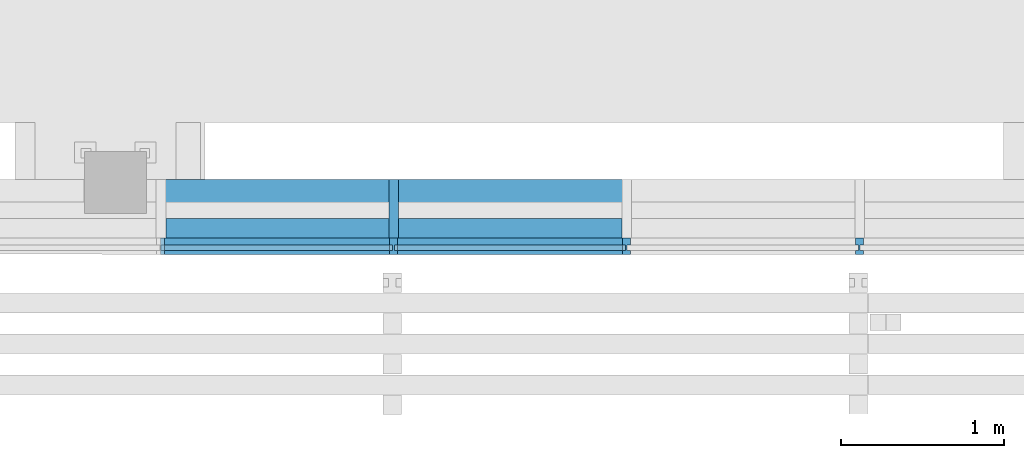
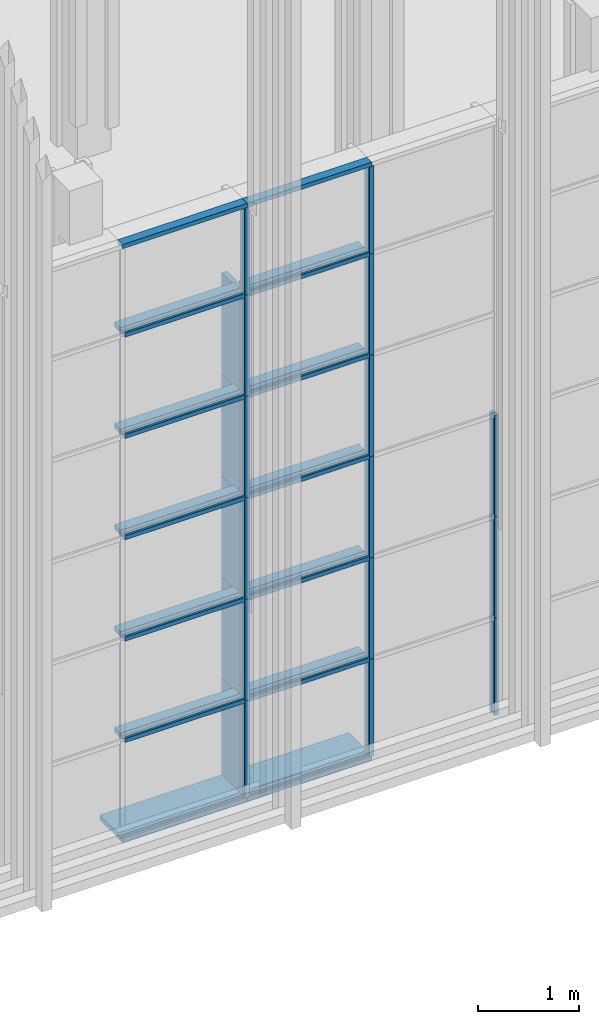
# One storey, part 15 of 260: 46 members, 2 elements without a shape of their own.
"""IFC2X3 building model written with IfcOpenShell, lengths in millimetres."""

from ifc_helpers import new_model, entity, si_unit, converted_unit, derived_unit, money_unit, direction, frame, origin_with_axes, place, context, subcontext, project, spatial, faceted_brep, source, transform, mapped, material, type_object, element, aggregate, save


model = new_model("IFC2X3")

# Units and contexts
model_context = context("Model", 3, precision=0.01, world=origin_with_axes(), true_north=direction((0.0, 1.0)))
body_context = subcontext(model_context, "Body", "Model", "MODEL_VIEW")
ifc_project = project(units=[si_unit("LENGTHUNIT", "METRE", prefix="MILLI"), si_unit("AREAUNIT", "SQUARE_METRE"), si_unit("VOLUMEUNIT", "CUBIC_METRE"), converted_unit("PLANEANGLEUNIT", "DEGREE", entity("IfcPlaneAngleMeasure", 0.0174532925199), si_unit("PLANEANGLEUNIT", "RADIAN"), dimensions=[0, 0, 0, 0, 0, 0, 0]), money_unit("EUR"), converted_unit("TIMEUNIT", "Year", entity("IfcTimeMeasure", 31556926.0), si_unit("TIMEUNIT", "SECOND"), dimensions=[0, 0, 1, 0, 0, 0, 0]), si_unit("MASSUNIT", "GRAM", prefix="KILO"), si_unit("THERMODYNAMICTEMPERATUREUNIT", "DEGREE_CELSIUS"), si_unit("LUMINOUSINTENSITYUNIT", "LUMEN"), si_unit("ENERGYUNIT", "JOULE", prefix="MEGA"), derived_unit("THERMALCONDUCTANCEUNIT", [(si_unit("POWERUNIT", "WATT"), 1), (si_unit("LENGTHUNIT", "METRE"), -1), (si_unit("THERMODYNAMICTEMPERATUREUNIT", "KELVIN"), -1)]), derived_unit("SPECIFICHEATCAPACITYUNIT", [(si_unit("ENERGYUNIT", "JOULE"), 1), (si_unit("MASSUNIT", "GRAM", prefix="KILO"), -1), (si_unit("THERMODYNAMICTEMPERATUREUNIT", "KELVIN"), -1)]), derived_unit("MASSDENSITYUNIT", [(si_unit("MASSUNIT", "GRAM", prefix="KILO"), 1), (si_unit("VOLUMEUNIT", "CUBIC_METRE"), -1)])], contexts=[model_context])

# Site, building, storey
site_placement = place(None, origin_with_axes())
site = spatial("IfcSite", under=ifc_project, at=site_placement, Name="Kolde pst 67a", CompositionType="ELEMENT")
building_placement = place(site_placement, origin_with_axes())
building = spatial("IfcBuilding", under=site, at=building_placement, Name="Riigigümnaasium", CompositionType="ELEMENT")
storey_placement = place(building_placement, origin_with_axes())
storey = spatial("IfcBuildingStorey", under=building, at=storey_placement, Name="1. korrus", CompositionType="ELEMENT", Elevation=0.0)

# Curtain wall, members
curtain_wall_type = type_object("IfcCurtainWallType", Name="Curtain Wall Type", PredefinedType="NOTDEFINED")
curtain_wall_1_placement = place(storey_placement, frame((47829.9854655, 8727.77020058, -0.000749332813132), z_axis=(0.0, 0.0, 1.0), x_axis=(1.0, 0.0, 0.0)))
curtain_wall_1 = element("IfcCurtainWall", 1, at=curtain_wall_1_placement, inside=storey, type_object=curtain_wall_type, Name="KLAASFASSAAD")
ifc_material_1 = material(Name="_METALL - alumiinium")
member_type_1 = type_object("IfcMemberType", Name="Mullion Frame 50 x 100", PredefinedType="MEMBER")
shared_shape_1 = source(origin_with_axes(), body_context, "Body", "Brep", [
    faceted_brep([(5.0, -16.5, 1230.00046362), (5.0, 16.5, 1230.00046362), (25.0, 16.5, 1230.00046362), (25.0, 40.0, 1230.00046362), (-25.0, 40.0, 1230.00046362), (-25.0, 16.5, 1230.00046362), (-5.0, 16.5, 1230.00046362), (-5.0, -16.5, 1230.00046362), (-25.0, -16.5, 1230.00046362), (-25.0, -60.0, 1230.00046362), (25.0, -60.0, 1230.00046362), (25.0, -16.5, 1230.00046362), (5.0, -16.5, 50.0), (5.0, 16.5, 50.0), (25.0, 16.5, 50.0), (25.0, 40.0, 50.0), (-25.0, 40.0, 50.0), (-25.0, 16.5, 50.0), (-5.0, 16.5, 50.0), (-5.0, -16.5, 50.0), (-25.0, -16.5, 50.0), (-25.0, -60.0, 50.0), (25.0, -60.0, 50.0), (25.0, -16.5, 50.0)], [[[0, 1, 2, 3, 4, 5, 6, 7, 8, 9, 10, 11]], [[0, 12, 13, 1]], [[1, 13, 14, 2]], [[14, 15, 3, 2]], [[4, 3, 15, 16]], [[17, 5, 4, 16]], [[5, 17, 18, 6]], [[7, 6, 18, 19]], [[8, 7, 19, 20]], [[8, 20, 21, 9]], [[10, 9, 21, 22]], [[11, 10, 22, 23]], [[11, 23, 12, 0]], [[13, 12, 23, 22, 21, 20, 19, 18, 17, 16, 15, 14]]]),
])
member_1_placement = place(curtain_wall_1_placement, frame((-7012.41506387, 15102.3099622, 0.000285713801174), z_axis=(0.0, 0.0, 1.0), x_axis=(0.999999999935, -1.14108152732e-05, 0.0)))
member_1 = element("IfcMember", 2, at=member_1_placement, type_object=member_type_1, material=ifc_material_1, Name="RF RAAM VERT-077", ObjectType="MEMBER", context=body_context, shape_type="MappedRepresentation", body=[
    mapped(shared_shape_1, transform((0.0, 0.0, 0.0), x_axis=(-1.0, 0.0, 0.0), y_axis=(0.0, -1.0, 0.0), z_axis=(0.0, 0.0, 1.0))),
])
member_2_placement = place(curtain_wall_1_placement, frame((-8442.41506377, 15102.3262796, 0.000285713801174), z_axis=(0.0, 0.0, 1.0), x_axis=(0.999999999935, -1.14108152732e-05, 0.0)))
member_2 = element("IfcMember", 3, at=member_2_placement, type_object=member_type_1, material=ifc_material_1, Name="RF RAAM VERT-083", ObjectType="MEMBER", context=body_context, shape_type="MappedRepresentation", body=[
    mapped(shared_shape_1, transform((0.0, 0.0, 0.0), x_axis=(-1.0, 0.0, 0.0), y_axis=(0.0, -1.0, 0.0), z_axis=(0.0, 0.0, 1.0))),
])
member_3_placement = place(curtain_wall_1_placement, frame((-9872.41506368, 15102.3425971, 0.000285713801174), z_axis=(0.0, 0.0, 1.0), x_axis=(0.999999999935, -1.14108152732e-05, 0.0)))
member_3 = element("IfcMember", 4, at=member_3_placement, type_object=member_type_1, material=ifc_material_1, Name="RF RAAM VERT-089", ObjectType="MEMBER", context=body_context, shape_type="MappedRepresentation", body=[
    mapped(shared_shape_1, transform((0.0, 0.0, 0.0), x_axis=(-1.0, 0.0, 0.0), y_axis=(0.0, -1.0, 0.0), z_axis=(0.0, 0.0, 1.0))),
])
shared_shape_2 = source(origin_with_axes(), body_context, "Body", "Brep", [
    faceted_brep([(5.0, -16.5, 1230.0), (5.0, 16.5, 1230.0), (25.0, 16.5, 1230.0), (25.0, 40.0, 1230.0), (-25.0, 40.0, 1230.0), (-25.0, 16.5, 1230.0), (-5.0, 16.5, 1230.0), (-5.0, -16.5, 1230.0), (-25.0, -16.5, 1230.0), (-25.0, -60.0, 1230.0), (25.0, -60.0, 1230.0), (25.0, -16.5, 1230.0), (5.0, -16.5, 0.0), (5.0, 16.5, 0.0), (25.0, 16.5, 0.0), (25.0, 40.0, 0.0), (-25.0, 40.0, 0.0), (-25.0, 16.5, 0.0), (-5.0, 16.5, 0.0), (-5.0, -16.5, 0.0), (-25.0, -16.5, 0.0), (-25.0, -60.0, 0.0), (25.0, -60.0, 0.0), (25.0, -16.5, 0.0)], [[[0, 1, 2, 3, 4, 5, 6, 7, 8, 9, 10, 11]], [[0, 12, 13, 1]], [[1, 13, 14, 2]], [[14, 15, 3, 2]], [[3, 15, 16, 4]], [[17, 5, 4, 16]], [[5, 17, 18, 6]], [[7, 6, 18, 19]], [[8, 7, 19, 20]], [[8, 20, 21, 9]], [[9, 21, 22, 10]], [[11, 10, 22, 23]], [[11, 23, 12, 0]], [[13, 12, 23, 22, 21, 20, 19, 18, 17, 16, 15, 14]]]),
])
member_4_placement = place(curtain_wall_1_placement, frame((-7012.41506387, 15102.3099622, 1230.00074933), z_axis=(0.0, 0.0, 1.0), x_axis=(0.999999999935, -1.14108152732e-05, 0.0)))
member_4 = element("IfcMember", 5, at=member_4_placement, type_object=member_type_1, material=ifc_material_1, Name="RF RAAM VERT-078", ObjectType="MEMBER", context=body_context, shape_type="MappedRepresentation", body=[
    mapped(shared_shape_2, transform((0.0, 0.0, 0.0), x_axis=(-1.0, 0.0, 0.0), y_axis=(0.0, -1.0, 0.0), z_axis=(0.0, 0.0, 1.0))),
])
member_5_placement = place(curtain_wall_1_placement, frame((-7012.41506387, 15102.3099622, 2460.00074933), z_axis=(0.0, 0.0, 1.0), x_axis=(0.999999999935, -1.14108152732e-05, 0.0)))
member_5 = element("IfcMember", 6, at=member_5_placement, type_object=member_type_1, material=ifc_material_1, Name="RF RAAM VERT-079", ObjectType="MEMBER", context=body_context, shape_type="MappedRepresentation", body=[
    mapped(shared_shape_2, transform((0.0, 0.0, 0.0), x_axis=(-1.0, 0.0, 0.0), y_axis=(0.0, -1.0, 0.0), z_axis=(0.0, 0.0, 1.0))),
])
member_6_placement = place(curtain_wall_1_placement, frame((-8442.41506377, 15102.3262796, 1230.00074933), z_axis=(0.0, 0.0, 1.0), x_axis=(0.999999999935, -1.14108152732e-05, 0.0)))
member_6 = element("IfcMember", 7, at=member_6_placement, type_object=member_type_1, material=ifc_material_1, Name="RF RAAM VERT-084", ObjectType="MEMBER", context=body_context, shape_type="MappedRepresentation", body=[
    mapped(shared_shape_2, transform((0.0, 0.0, 0.0), x_axis=(-1.0, 0.0, 0.0), y_axis=(0.0, -1.0, 0.0), z_axis=(0.0, 0.0, 1.0))),
])
member_7_placement = place(curtain_wall_1_placement, frame((-8442.41506377, 15102.3262796, 2460.00074933), z_axis=(0.0, 0.0, 1.0), x_axis=(0.999999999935, -1.14108152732e-05, 0.0)))
member_7 = element("IfcMember", 8, at=member_7_placement, type_object=member_type_1, material=ifc_material_1, Name="RF RAAM VERT-085", ObjectType="MEMBER", context=body_context, shape_type="MappedRepresentation", body=[
    mapped(shared_shape_2, transform((0.0, 0.0, 0.0), x_axis=(-1.0, 0.0, 0.0), y_axis=(0.0, -1.0, 0.0), z_axis=(0.0, 0.0, 1.0))),
])
member_8_placement = place(curtain_wall_1_placement, frame((-8442.41506377, 15102.3262796, 3690.00074933), z_axis=(0.0, 0.0, 1.0), x_axis=(0.999999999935, -1.14108152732e-05, 0.0)))
member_8 = element("IfcMember", 9, at=member_8_placement, type_object=member_type_1, material=ifc_material_1, Name="RF RAAM VERT-086", ObjectType="MEMBER", context=body_context, shape_type="MappedRepresentation", body=[
    mapped(shared_shape_2, transform((0.0, 0.0, 0.0), x_axis=(-1.0, 0.0, 0.0), y_axis=(0.0, -1.0, 0.0), z_axis=(0.0, 0.0, 1.0))),
])
member_9_placement = place(curtain_wall_1_placement, frame((-8442.41506377, 15102.3262796, 4920.00074933), z_axis=(0.0, 0.0, 1.0), x_axis=(0.999999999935, -1.14108152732e-05, 0.0)))
member_9 = element("IfcMember", 10, at=member_9_placement, type_object=member_type_1, material=ifc_material_1, Name="RF RAAM VERT-087", ObjectType="MEMBER", context=body_context, shape_type="MappedRepresentation", body=[
    mapped(shared_shape_2, transform((0.0, 0.0, 0.0), x_axis=(-1.0, 0.0, 0.0), y_axis=(0.0, -1.0, 0.0), z_axis=(0.0, 0.0, 1.0))),
])
member_10_placement = place(curtain_wall_1_placement, frame((-9872.41506368, 15102.3425971, 1230.00074933), z_axis=(0.0, 0.0, 1.0), x_axis=(0.999999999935, -1.14108152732e-05, 0.0)))
member_10 = element("IfcMember", 11, at=member_10_placement, type_object=member_type_1, material=ifc_material_1, Name="RF RAAM VERT-090", ObjectType="MEMBER", context=body_context, shape_type="MappedRepresentation", body=[
    mapped(shared_shape_2, transform((0.0, 0.0, 0.0), x_axis=(-1.0, 0.0, 0.0), y_axis=(0.0, -1.0, 0.0), z_axis=(0.0, 0.0, 1.0))),
])
member_11_placement = place(curtain_wall_1_placement, frame((-9872.41506368, 15102.3425971, 2460.00074933), z_axis=(0.0, 0.0, 1.0), x_axis=(0.999999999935, -1.14108152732e-05, 0.0)))
member_11 = element("IfcMember", 12, at=member_11_placement, type_object=member_type_1, material=ifc_material_1, Name="RF RAAM VERT-091", ObjectType="MEMBER", context=body_context, shape_type="MappedRepresentation", body=[
    mapped(shared_shape_2, transform((0.0, 0.0, 0.0), x_axis=(-1.0, 0.0, 0.0), y_axis=(0.0, -1.0, 0.0), z_axis=(0.0, 0.0, 1.0))),
])
member_12_placement = place(curtain_wall_1_placement, frame((-9872.41506368, 15102.3425971, 3690.00074933), z_axis=(0.0, 0.0, 1.0), x_axis=(0.999999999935, -1.14108152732e-05, 0.0)))
member_12 = element("IfcMember", 13, at=member_12_placement, type_object=member_type_1, material=ifc_material_1, Name="RF RAAM VERT-092", ObjectType="MEMBER", context=body_context, shape_type="MappedRepresentation", body=[
    mapped(shared_shape_2, transform((0.0, 0.0, 0.0), x_axis=(-1.0, 0.0, 0.0), y_axis=(0.0, -1.0, 0.0), z_axis=(0.0, 0.0, 1.0))),
])
member_13_placement = place(curtain_wall_1_placement, frame((-9872.41506368, 15102.3425971, 4920.00074933), z_axis=(0.0, 0.0, 1.0), x_axis=(0.999999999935, -1.14108152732e-05, 0.0)))
member_13 = element("IfcMember", 14, at=member_13_placement, type_object=member_type_1, material=ifc_material_1, Name="RF RAAM VERT-093", ObjectType="MEMBER", context=body_context, shape_type="MappedRepresentation", body=[
    mapped(shared_shape_2, transform((0.0, 0.0, 0.0), x_axis=(-1.0, 0.0, 0.0), y_axis=(0.0, -1.0, 0.0), z_axis=(0.0, 0.0, 1.0))),
])
member_type_2 = type_object("IfcMemberType", Name="Boundary Frame 50 x 100", PredefinedType="MEMBER")
shared_shape_3 = source(origin_with_axes(), body_context, "Body", "Brep", [
    faceted_brep([(-30.0, -16.5, 1430.0), (-50.0, -16.5, 1430.0), (-50.0, -60.0, 1430.0), (0.0, -60.0, 1430.0), (0.0, 40.0, 1430.0), (-50.0, 40.0, 1430.0), (-50.0, 16.5, 1430.0), (-30.0, 16.5, 1430.0), (-30.0, -16.5, 0.0), (-50.0, -16.5, 0.0), (-50.0, -60.0, 0.0), (0.0, -60.0, 0.0), (0.0, 40.0, 0.0), (-50.0, 40.0, 0.0), (-50.0, 16.5, 0.0), (-30.0, 16.5, 0.0)], [[[0, 1, 2, 3, 4, 5, 6, 7]], [[0, 8, 9, 1]], [[9, 10, 2, 1]], [[10, 11, 3, 2]], [[11, 12, 4, 3]], [[12, 13, 5, 4]], [[6, 5, 13, 14]], [[14, 15, 7, 6]], [[7, 15, 8, 0]], [[8, 15, 14, 13, 12, 11, 10, 9]]]),
])
member_14_placement = place(curtain_wall_1_placement, frame((-8442.41506377, 15102.3262796, 0.000285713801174), z_axis=(-0.999999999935, 1.14108152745e-05, 0.0), x_axis=(0.0, 0.0, 1.0)))
member_14 = element("IfcMember", 15, at=member_14_placement, type_object=member_type_2, material=ifc_material_1, Name="RF RAAM SERV-595", ObjectType="MEMBER", context=body_context, shape_type="MappedRepresentation", body=[
    mapped(shared_shape_3, transform((0.0, 0.0, 0.0), x_axis=(-1.0, 0.0, 0.0), y_axis=(0.0, -1.0, 0.0), z_axis=(0.0, 0.0, 1.0))),
])
member_15_placement = place(curtain_wall_1_placement, frame((-9872.41506368, 15102.3425971, 0.000285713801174), z_axis=(-0.999999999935, 1.1410815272e-05, 0.0), x_axis=(0.0, 0.0, 1.0)))
member_15 = element("IfcMember", 16, at=member_15_placement, type_object=member_type_2, material=ifc_material_1, Name="RF RAAM SERV-596", ObjectType="MEMBER", context=body_context, shape_type="MappedRepresentation", body=[
    mapped(shared_shape_3, transform((0.0, 0.0, 0.0), x_axis=(-1.0, 0.0, 0.0), y_axis=(0.0, -1.0, 0.0), z_axis=(0.0, 0.0, 1.0))),
])
member_16_placement = place(curtain_wall_1_placement, frame((-9872.41506368, 15102.3425971, 7259.99992735), z_axis=(0.999999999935, -1.14108152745e-05, 0.0), x_axis=(0.0, 0.0, -1.0)))
member_16 = element("IfcMember", 17, at=member_16_placement, type_object=member_type_2, material=ifc_material_1, Name="RF RAAM SERV-622", ObjectType="MEMBER", context=body_context, shape_type="MappedRepresentation", body=[
    mapped(shared_shape_3, transform((0.0, 0.0, 0.0), x_axis=(-1.0, 0.0, 0.0), y_axis=(0.0, -1.0, 0.0), z_axis=(0.0, 0.0, 1.0))),
])
member_17_placement = place(curtain_wall_1_placement, frame((-11302.4150636, 15102.3589146, 7259.99992735), z_axis=(0.999999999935, -1.1410815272e-05, 0.0), x_axis=(0.0, 0.0, -1.0)))
member_17 = element("IfcMember", 18, at=member_17_placement, type_object=member_type_2, material=ifc_material_1, Name="RF RAAM SERV-621", ObjectType="MEMBER", context=body_context, shape_type="MappedRepresentation", body=[
    mapped(shared_shape_3, transform((0.0, 0.0, 0.0), x_axis=(-1.0, 0.0, 0.0), y_axis=(0.0, -1.0, 0.0), z_axis=(0.0, 0.0, 1.0))),
])
member_type_3 = type_object("IfcMemberType", Name="Transom Frame 50 x 100", PredefinedType="MEMBER")
shared_shape_4 = source(origin_with_axes(), body_context, "Body", "Brep", [
    faceted_brep([(5.0, -16.5, 1405.0), (5.0, 16.5, 1405.0), (25.0, 16.5, 1405.0), (25.0, 40.0, 1405.0), (-25.0, 40.0, 1405.0), (-25.0, 16.5, 1405.0), (-5.0, 16.5, 1405.0), (-5.0, -16.5, 1405.0), (-25.0, -16.5, 1405.0), (-25.0, -60.0, 1405.0), (25.0, -60.0, 1405.0), (25.0, -16.5, 1405.0), (5.0, -16.5, 25.0), (5.0, 16.5, 25.0), (25.0, 16.5, 25.0), (25.0, 40.0, 25.0), (-25.0, 40.0, 25.0), (-25.0, 16.5, 25.0), (-5.0, 16.5, 25.0), (-5.0, -16.5, 25.0), (-25.0, -16.5, 25.0), (-25.0, -60.0, 25.0), (25.0, -60.0, 25.0), (25.0, -16.5, 25.0)], [[[0, 1, 2, 3, 4, 5, 6, 7, 8, 9, 10, 11]], [[0, 12, 13, 1]], [[1, 13, 14, 2]], [[14, 15, 3, 2]], [[4, 3, 15, 16]], [[17, 5, 4, 16]], [[5, 17, 18, 6]], [[7, 6, 18, 19]], [[8, 7, 19, 20]], [[8, 20, 21, 9]], [[10, 9, 21, 22]], [[11, 10, 22, 23]], [[11, 23, 12, 0]], [[13, 12, 23, 22, 21, 20, 19, 18, 17, 16, 15, 14]]]),
])
member_18_placement = place(curtain_wall_1_placement, frame((-8442.41506377, 15102.3262796, 1230.00074933), z_axis=(-0.999999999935, 1.14108152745e-05, 0.0), x_axis=(0.0, 0.0, 1.0)))
member_18 = element("IfcMember", 19, at=member_18_placement, type_object=member_type_3, material=ifc_material_1, Name="RF RAAM HOR-031", ObjectType="MEMBER", context=body_context, shape_type="MappedRepresentation", body=[
    mapped(shared_shape_4, transform((0.0, 0.0, 0.0), x_axis=(-1.0, 0.0, 0.0), y_axis=(0.0, -1.0, 0.0), z_axis=(0.0, 0.0, 1.0))),
])
member_19_placement = place(curtain_wall_1_placement, frame((-9872.41506368, 15102.3425971, 1230.00074933), z_axis=(-0.999999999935, 1.1410815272e-05, 0.0), x_axis=(0.0, 0.0, 1.0)))
member_19 = element("IfcMember", 20, at=member_19_placement, type_object=member_type_3, material=ifc_material_1, Name="RF RAAM HOR-032", ObjectType="MEMBER", context=body_context, shape_type="MappedRepresentation", body=[
    mapped(shared_shape_4, transform((0.0, 0.0, 0.0), x_axis=(-1.0, 0.0, 0.0), y_axis=(0.0, -1.0, 0.0), z_axis=(0.0, 0.0, 1.0))),
])
member_20_placement = place(curtain_wall_1_placement, frame((-8442.41506377, 15102.3262796, 2460.00074933), z_axis=(-0.999999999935, 1.14108152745e-05, 0.0), x_axis=(0.0, 0.0, 1.0)))
member_20 = element("IfcMember", 21, at=member_20_placement, type_object=member_type_3, material=ifc_material_1, Name="RF RAAM HOR-048", ObjectType="MEMBER", context=body_context, shape_type="MappedRepresentation", body=[
    mapped(shared_shape_4, transform((0.0, 0.0, 0.0), x_axis=(-1.0, 0.0, 0.0), y_axis=(0.0, -1.0, 0.0), z_axis=(0.0, 0.0, 1.0))),
])
member_21_placement = place(curtain_wall_1_placement, frame((-9872.41506368, 15102.3425971, 2460.00074933), z_axis=(-0.999999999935, 1.1410815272e-05, 0.0), x_axis=(0.0, 0.0, 1.0)))
member_21 = element("IfcMember", 22, at=member_21_placement, type_object=member_type_3, material=ifc_material_1, Name="RF RAAM HOR-049", ObjectType="MEMBER", context=body_context, shape_type="MappedRepresentation", body=[
    mapped(shared_shape_4, transform((0.0, 0.0, 0.0), x_axis=(-1.0, 0.0, 0.0), y_axis=(0.0, -1.0, 0.0), z_axis=(0.0, 0.0, 1.0))),
])
member_22_placement = place(curtain_wall_1_placement, frame((-8442.41506377, 15102.3262796, 3690.00074933), z_axis=(-0.999999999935, 1.14108152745e-05, 0.0), x_axis=(0.0, 0.0, 1.0)))
member_22 = element("IfcMember", 23, at=member_22_placement, type_object=member_type_3, material=ifc_material_1, Name="RF RAAM HOR-065", ObjectType="MEMBER", context=body_context, shape_type="MappedRepresentation", body=[
    mapped(shared_shape_4, transform((0.0, 0.0, 0.0), x_axis=(-1.0, 0.0, 0.0), y_axis=(0.0, -1.0, 0.0), z_axis=(0.0, 0.0, 1.0))),
])
member_23_placement = place(curtain_wall_1_placement, frame((-9872.41506368, 15102.3425971, 3690.00074933), z_axis=(-0.999999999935, 1.1410815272e-05, 0.0), x_axis=(0.0, 0.0, 1.0)))
member_23 = element("IfcMember", 24, at=member_23_placement, type_object=member_type_3, material=ifc_material_1, Name="RF RAAM HOR-066", ObjectType="MEMBER", context=body_context, shape_type="MappedRepresentation", body=[
    mapped(shared_shape_4, transform((0.0, 0.0, 0.0), x_axis=(-1.0, 0.0, 0.0), y_axis=(0.0, -1.0, 0.0), z_axis=(0.0, 0.0, 1.0))),
])
member_24_placement = place(curtain_wall_1_placement, frame((-8442.41506377, 15102.3262796, 4920.00074933), z_axis=(-0.999999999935, 1.14108152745e-05, 0.0), x_axis=(0.0, 0.0, 1.0)))
member_24 = element("IfcMember", 25, at=member_24_placement, type_object=member_type_3, material=ifc_material_1, Name="RF RAAM HOR-082", ObjectType="MEMBER", context=body_context, shape_type="MappedRepresentation", body=[
    mapped(shared_shape_4, transform((0.0, 0.0, 0.0), x_axis=(-1.0, 0.0, 0.0), y_axis=(0.0, -1.0, 0.0), z_axis=(0.0, 0.0, 1.0))),
])
member_25_placement = place(curtain_wall_1_placement, frame((-9872.41506368, 15102.3425971, 4920.00074933), z_axis=(-0.999999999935, 1.1410815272e-05, 0.0), x_axis=(0.0, 0.0, 1.0)))
member_25 = element("IfcMember", 26, at=member_25_placement, type_object=member_type_3, material=ifc_material_1, Name="RF RAAM HOR-083", ObjectType="MEMBER", context=body_context, shape_type="MappedRepresentation", body=[
    mapped(shared_shape_4, transform((0.0, 0.0, 0.0), x_axis=(-1.0, 0.0, 0.0), y_axis=(0.0, -1.0, 0.0), z_axis=(0.0, 0.0, 1.0))),
])
member_26_placement = place(curtain_wall_1_placement, frame((-8442.41506377, 15102.3262796, 6150.00074933), z_axis=(-0.999999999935, 1.14108152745e-05, 0.0), x_axis=(0.0, 0.0, 1.0)))
member_26 = element("IfcMember", 27, at=member_26_placement, type_object=member_type_3, material=ifc_material_1, Name="RF RAAM HOR-099", ObjectType="MEMBER", context=body_context, shape_type="MappedRepresentation", body=[
    mapped(shared_shape_4, transform((0.0, 0.0, 0.0), x_axis=(-1.0, 0.0, 0.0), y_axis=(0.0, -1.0, 0.0), z_axis=(0.0, 0.0, 1.0))),
])
member_27_placement = place(curtain_wall_1_placement, frame((-9872.41506368, 15102.3425971, 6150.00074933), z_axis=(-0.999999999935, 1.1410815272e-05, 0.0), x_axis=(0.0, 0.0, 1.0)))
member_27 = element("IfcMember", 28, at=member_27_placement, type_object=member_type_3, material=ifc_material_1, Name="RF RAAM HOR-100", ObjectType="MEMBER", context=body_context, shape_type="MappedRepresentation", body=[
    mapped(shared_shape_4, transform((0.0, 0.0, 0.0), x_axis=(-1.0, 0.0, 0.0), y_axis=(0.0, -1.0, 0.0), z_axis=(0.0, 0.0, 1.0))),
])
shared_shape_5 = source(origin_with_axes(), body_context, "Body", "Brep", [
    faceted_brep([(5.0, -16.5, 1059.99917802), (5.0, 16.5, 1059.99917802), (25.0, 16.5, 1059.99917802), (25.0, 40.0, 1059.99917802), (-25.0, 40.0, 1059.99917802), (-25.0, 16.5, 1059.99917802), (-5.0, 16.5, 1059.99917802), (-5.0, -16.5, 1059.99917802), (-25.0, -16.5, 1059.99917802), (-25.0, -60.0, 1059.99917802), (25.0, -60.0, 1059.99917802), (25.0, -16.5, 1059.99917802), (5.0, -16.5, 0.0), (5.0, 16.5, 0.0), (25.0, 16.5, 0.0), (25.0, 40.0, 0.0), (-25.0, 40.0, 0.0), (-25.0, 16.5, 0.0), (-5.0, 16.5, 0.0), (-5.0, -16.5, 0.0), (-25.0, -16.5, 0.0), (-25.0, -60.0, 0.0), (25.0, -60.0, 0.0), (25.0, -16.5, 0.0)], [[[0, 1, 2, 3, 4, 5, 6, 7, 8, 9, 10, 11]], [[0, 12, 13, 1]], [[1, 13, 14, 2]], [[14, 15, 3, 2]], [[3, 15, 16, 4]], [[17, 5, 4, 16]], [[5, 17, 18, 6]], [[7, 6, 18, 19]], [[8, 7, 19, 20]], [[8, 20, 21, 9]], [[9, 21, 22, 10]], [[11, 10, 22, 23]], [[11, 23, 12, 0]], [[13, 12, 23, 22, 21, 20, 19, 18, 17, 16, 15, 14]]]),
])
member_28_placement = place(curtain_wall_1_placement, frame((-8442.41506377, 15102.3262796, 6150.00074933), z_axis=(0.0, 0.0, 1.0), x_axis=(0.999999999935, -1.14108152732e-05, 0.0)))
member_28 = element("IfcMember", 29, at=member_28_placement, type_object=member_type_1, material=ifc_material_1, Name="RF RAAM VERT-079", ObjectType="MEMBER", context=body_context, shape_type="MappedRepresentation", body=[
    mapped(shared_shape_5, transform((0.0, 0.0, 0.0), x_axis=(-1.0, 0.0, 0.0), y_axis=(0.0, -1.0, 0.0), z_axis=(0.0, 0.0, 1.0))),
])
member_29_placement = place(curtain_wall_1_placement, frame((-9872.41506368, 15102.3425971, 6150.00074933), z_axis=(0.0, 0.0, 1.0), x_axis=(0.999999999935, -1.14108152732e-05, 0.0)))
member_29 = element("IfcMember", 30, at=member_29_placement, type_object=member_type_1, material=ifc_material_1, Name="RF RAAM VERT-080", ObjectType="MEMBER", context=body_context, shape_type="MappedRepresentation", body=[
    mapped(shared_shape_5, transform((0.0, 0.0, 0.0), x_axis=(-1.0, 0.0, 0.0), y_axis=(0.0, -1.0, 0.0), z_axis=(0.0, 0.0, 1.0))),
])
aggregate(curtain_wall_1, [member_1, member_4, member_5, member_2, member_6, member_7, member_8, member_9, member_3, member_10, member_11, member_12, member_13, member_14, member_15, member_18, member_19, member_20, member_21, member_22, member_23, member_24, member_25, member_26, member_27, member_28, member_29, member_16, member_17])

curtain_wall_2_placement = place(storey_placement, frame((23890.0026791, 27220.1832522, -0.000253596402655), z_axis=(0.0, 0.0, 1.0), x_axis=(1.0, 0.0, 0.0)))
curtain_wall_2 = element("IfcCurtainWall", 31, at=curtain_wall_2_placement, inside=storey, type_object=curtain_wall_type, Name="Klaasfassaadi puitkarkass")
ifc_material_2 = material(Name="_KANDETARIND - liimpuit vastavalt EK osale")
member_type_4 = type_object("IfcMemberType", Name="Transom Frame 60 x 120", PredefinedType="MEMBER")
shared_shape_6 = source(origin_with_axes(), body_context, "Body", "Brep", [
    faceted_brep([(-30.0, 0.0, 30.0), (-30.0, -120.0, 30.0), (-30.0, -120.0, 1400.0), (-30.0, 0.0, 1400.0), (30.0, 0.0, 30.0), (30.0, -120.0, 30.0), (30.0, -120.0, 1400.0), (30.0, 0.0, 1400.0)], [[[0, 1, 2, 3]], [[1, 0, 4, 5]], [[1, 5, 6, 2]], [[2, 6, 7, 3]], [[4, 0, 3, 7]], [[5, 4, 7, 6]]]),
])
member_30_placement = place(curtain_wall_2_placement, frame((15499.3770557, -3330.16844584, 1230.0002536), z_axis=(-1.0, 0.0, 0.0), x_axis=(0.0, 0.0, 1.0)))
member_30 = element("IfcMember", 32, at=member_30_placement, type_object=member_type_4, material=ifc_material_2, Name="RF RAAM HOR-648", ObjectType="MEMBER", context=body_context, shape_type="MappedRepresentation", body=[
    mapped(shared_shape_6, transform((0.0, 0.0, 0.0), x_axis=(-1.0, 0.0, 0.0), y_axis=(0.0, -1.0, 0.0), z_axis=(0.0, 0.0, 1.0))),
])
member_31_placement = place(curtain_wall_2_placement, frame((14069.3770557, -3330.16844597, 1230.0002536), z_axis=(-1.0, 0.0, 0.0), x_axis=(0.0, 0.0, 1.0)))
member_31 = element("IfcMember", 33, at=member_31_placement, type_object=member_type_4, material=ifc_material_2, Name="RF RAAM HOR-648", ObjectType="MEMBER", context=body_context, shape_type="MappedRepresentation", body=[
    mapped(shared_shape_6, transform((0.0, 0.0, 0.0), x_axis=(-1.0, 0.0, 0.0), y_axis=(0.0, -1.0, 0.0), z_axis=(0.0, 0.0, 1.0))),
])
member_32_placement = place(curtain_wall_2_placement, frame((15499.3770557, -3330.16844584, 2460.0002536), z_axis=(-1.0, 0.0, 0.0), x_axis=(0.0, 0.0, 1.0)))
member_32 = element("IfcMember", 34, at=member_32_placement, type_object=member_type_4, material=ifc_material_2, Name="RF RAAM HOR-648", ObjectType="MEMBER", context=body_context, shape_type="MappedRepresentation", body=[
    mapped(shared_shape_6, transform((0.0, 0.0, 0.0), x_axis=(-1.0, 0.0, 0.0), y_axis=(0.0, -1.0, 0.0), z_axis=(0.0, 0.0, 1.0))),
])
member_33_placement = place(curtain_wall_2_placement, frame((14069.3770557, -3330.16844597, 2460.0002536), z_axis=(-1.0, 0.0, 0.0), x_axis=(0.0, 0.0, 1.0)))
member_33 = element("IfcMember", 35, at=member_33_placement, type_object=member_type_4, material=ifc_material_2, Name="RF RAAM HOR-648", ObjectType="MEMBER", context=body_context, shape_type="MappedRepresentation", body=[
    mapped(shared_shape_6, transform((0.0, 0.0, 0.0), x_axis=(-1.0, 0.0, 0.0), y_axis=(0.0, -1.0, 0.0), z_axis=(0.0, 0.0, 1.0))),
])
member_34_placement = place(curtain_wall_2_placement, frame((15499.3770557, -3330.16844584, 3690.0002536), z_axis=(-1.0, 0.0, 0.0), x_axis=(0.0, 0.0, 1.0)))
member_34 = element("IfcMember", 36, at=member_34_placement, type_object=member_type_4, material=ifc_material_2, Name="RF RAAM HOR-648", ObjectType="MEMBER", context=body_context, shape_type="MappedRepresentation", body=[
    mapped(shared_shape_6, transform((0.0, 0.0, 0.0), x_axis=(-1.0, 0.0, 0.0), y_axis=(0.0, -1.0, 0.0), z_axis=(0.0, 0.0, 1.0))),
])
member_35_placement = place(curtain_wall_2_placement, frame((14069.3770557, -3330.16844597, 3690.0002536), z_axis=(-1.0, 0.0, 0.0), x_axis=(0.0, 0.0, 1.0)))
member_35 = element("IfcMember", 37, at=member_35_placement, type_object=member_type_4, material=ifc_material_2, Name="RF RAAM HOR-648", ObjectType="MEMBER", context=body_context, shape_type="MappedRepresentation", body=[
    mapped(shared_shape_6, transform((0.0, 0.0, 0.0), x_axis=(-1.0, 0.0, 0.0), y_axis=(0.0, -1.0, 0.0), z_axis=(0.0, 0.0, 1.0))),
])
member_36_placement = place(curtain_wall_2_placement, frame((15499.3770557, -3330.16844584, 4920.0002536), z_axis=(-1.0, 0.0, 0.0), x_axis=(0.0, 0.0, 1.0)))
member_36 = element("IfcMember", 38, at=member_36_placement, type_object=member_type_4, material=ifc_material_2, Name="RF RAAM HOR-648", ObjectType="MEMBER", context=body_context, shape_type="MappedRepresentation", body=[
    mapped(shared_shape_6, transform((0.0, 0.0, 0.0), x_axis=(-1.0, 0.0, 0.0), y_axis=(0.0, -1.0, 0.0), z_axis=(0.0, 0.0, 1.0))),
])
member_37_placement = place(curtain_wall_2_placement, frame((14069.3770557, -3330.16844597, 4920.0002536), z_axis=(-1.0, 0.0, 0.0), x_axis=(0.0, 0.0, 1.0)))
member_37 = element("IfcMember", 39, at=member_37_placement, type_object=member_type_4, material=ifc_material_2, Name="RF RAAM HOR-648", ObjectType="MEMBER", context=body_context, shape_type="MappedRepresentation", body=[
    mapped(shared_shape_6, transform((0.0, 0.0, 0.0), x_axis=(-1.0, 0.0, 0.0), y_axis=(0.0, -1.0, 0.0), z_axis=(0.0, 0.0, 1.0))),
])
member_38_placement = place(curtain_wall_2_placement, frame((15499.3770557, -3330.16844584, 6150.0002536), z_axis=(-1.0, 0.0, 0.0), x_axis=(0.0, 0.0, 1.0)))
member_38 = element("IfcMember", 40, at=member_38_placement, type_object=member_type_4, material=ifc_material_2, Name="RF RAAM HOR-648", ObjectType="MEMBER", context=body_context, shape_type="MappedRepresentation", body=[
    mapped(shared_shape_6, transform((0.0, 0.0, 0.0), x_axis=(-1.0, 0.0, 0.0), y_axis=(0.0, -1.0, 0.0), z_axis=(0.0, 0.0, 1.0))),
])
member_39_placement = place(curtain_wall_2_placement, frame((14069.3770557, -3330.16844597, 6150.0002536), z_axis=(-1.0, 0.0, 0.0), x_axis=(0.0, 0.0, 1.0)))
member_39 = element("IfcMember", 41, at=member_39_placement, type_object=member_type_4, material=ifc_material_2, Name="RF RAAM HOR-648", ObjectType="MEMBER", context=body_context, shape_type="MappedRepresentation", body=[
    mapped(shared_shape_6, transform((0.0, 0.0, 0.0), x_axis=(-1.0, 0.0, 0.0), y_axis=(0.0, -1.0, 0.0), z_axis=(0.0, 0.0, 1.0))),
])
member_type_5 = type_object("IfcMemberType", Name="Mullion Frame 60 x 360", PredefinedType="MEMBER")
shared_shape_7 = source(origin_with_axes(), body_context, "Body", "Brep", [
    faceted_brep([(-30.0, 0.0, 60.0), (-30.0, -360.0, 60.0), (-30.0, -360.0, 1230.0002536), (-30.0, 0.0, 1230.0002536), (30.0, 0.0, 60.0), (30.0, -360.0, 60.0), (30.0, -360.0, 1230.0002536), (30.0, 0.0, 1230.0002536)], [[[0, 1, 2, 3]], [[1, 0, 4, 5]], [[1, 5, 6, 2]], [[2, 6, 7, 3]], [[4, 0, 3, 7]], [[5, 4, 7, 6]]]),
])
member_40_placement = place(curtain_wall_2_placement, frame((14069.3770557, -3330.16844597, 0.000124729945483), z_axis=(0.0, 0.0, 1.0), x_axis=(1.0, 0.0, 0.0)))
member_40 = element("IfcMember", 42, at=member_40_placement, type_object=member_type_5, material=ifc_material_2, Name="RF RAAM VERT-837", ObjectType="MEMBER", context=body_context, shape_type="MappedRepresentation", body=[
    mapped(shared_shape_7, transform((0.0, 0.0, 0.0), x_axis=(-1.0, 0.0, 0.0), y_axis=(0.0, -1.0, 0.0), z_axis=(0.0, 0.0, 1.0))),
])
shared_shape_8 = source(origin_with_axes(), body_context, "Body", "Brep", [
    faceted_brep([(-30.0, -360.0, 0.0), (-30.0, -360.0, 1230.0), (-30.0, 0.0, 1230.0), (-30.0, 0.0, 0.0), (30.0, -360.0, 0.0), (30.0, -360.0, 1230.0), (30.0, 0.0, 1230.0), (30.0, 0.0, 0.0)], [[[0, 1, 2, 3]], [[4, 5, 1, 0]], [[1, 5, 6, 2]], [[3, 2, 6, 7]], [[0, 3, 7, 4]], [[7, 6, 5, 4]]]),
])
member_41_placement = place(curtain_wall_2_placement, frame((14069.3770557, -3330.16844597, 1230.0002536), z_axis=(0.0, 0.0, 1.0), x_axis=(1.0, 0.0, 0.0)))
member_41 = element("IfcMember", 43, at=member_41_placement, type_object=member_type_5, material=ifc_material_2, Name="RF RAAM VERT-837", ObjectType="MEMBER", context=body_context, shape_type="MappedRepresentation", body=[
    mapped(shared_shape_8, transform((0.0, 0.0, 0.0), x_axis=(-1.0, 0.0, 0.0), y_axis=(0.0, -1.0, 0.0), z_axis=(0.0, 0.0, 1.0))),
])
member_42_placement = place(curtain_wall_2_placement, frame((14069.3770557, -3330.16844597, 2460.0002536), z_axis=(0.0, 0.0, 1.0), x_axis=(1.0, 0.0, 0.0)))
member_42 = element("IfcMember", 44, at=member_42_placement, type_object=member_type_5, material=ifc_material_2, Name="RF RAAM VERT-837", ObjectType="MEMBER", context=body_context, shape_type="MappedRepresentation", body=[
    mapped(shared_shape_8, transform((0.0, 0.0, 0.0), x_axis=(-1.0, 0.0, 0.0), y_axis=(0.0, -1.0, 0.0), z_axis=(0.0, 0.0, 1.0))),
])
member_43_placement = place(curtain_wall_2_placement, frame((14069.3770557, -3330.16844597, 3690.0002536), z_axis=(0.0, 0.0, 1.0), x_axis=(1.0, 0.0, 0.0)))
member_43 = element("IfcMember", 45, at=member_43_placement, type_object=member_type_5, material=ifc_material_2, Name="RF RAAM VERT-837", ObjectType="MEMBER", context=body_context, shape_type="MappedRepresentation", body=[
    mapped(shared_shape_8, transform((0.0, 0.0, 0.0), x_axis=(-1.0, 0.0, 0.0), y_axis=(0.0, -1.0, 0.0), z_axis=(0.0, 0.0, 1.0))),
])
member_44_placement = place(curtain_wall_2_placement, frame((14069.3770557, -3330.16844597, 4920.0002536), z_axis=(0.0, 0.0, 1.0), x_axis=(1.0, 0.0, 0.0)))
member_44 = element("IfcMember", 46, at=member_44_placement, type_object=member_type_5, material=ifc_material_2, Name="RF RAAM VERT-837", ObjectType="MEMBER", context=body_context, shape_type="MappedRepresentation", body=[
    mapped(shared_shape_8, transform((0.0, 0.0, 0.0), x_axis=(-1.0, 0.0, 0.0), y_axis=(0.0, -1.0, 0.0), z_axis=(0.0, 0.0, 1.0))),
])
member_type_6 = type_object("IfcMemberType", Name="Boundary Frame 60 x 360", PredefinedType="MEMBER")
shared_shape_9 = source(origin_with_axes(), body_context, "Body", "Brep", [
    faceted_brep([(-60.0, -360.0, 0.0), (-60.0, -360.0, 1430.0), (-60.0, 0.0, 1430.0), (-60.0, 0.0, 0.0), (0.0, -360.0, 0.0), (0.0, -360.0, 1430.0), (0.0, 0.0, 1430.0), (0.0, 0.0, 0.0)], [[[0, 1, 2, 3]], [[4, 5, 1, 0]], [[1, 5, 6, 2]], [[3, 2, 6, 7]], [[0, 3, 7, 4]], [[7, 6, 5, 4]]]),
])
member_45_placement = place(curtain_wall_2_placement, frame((15499.3770557, -3330.16844584, 0.000124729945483), z_axis=(-1.0, 0.0, 0.0), x_axis=(0.0, 0.0, 1.0)))
member_45 = element("IfcMember", 47, at=member_45_placement, type_object=member_type_6, material=ifc_material_2, Name="RF RAAM SERV-668", ObjectType="MEMBER", context=body_context, shape_type="MappedRepresentation", body=[
    mapped(shared_shape_9, transform((0.0, 0.0, 0.0), x_axis=(-1.0, 0.0, 0.0), y_axis=(0.0, -1.0, 0.0), z_axis=(0.0, 0.0, 1.0))),
])
member_46_placement = place(curtain_wall_2_placement, frame((14069.3770557, -3330.16844597, 0.000124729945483), z_axis=(-1.0, 0.0, 0.0), x_axis=(0.0, 0.0, 1.0)))
member_46 = element("IfcMember", 48, at=member_46_placement, type_object=member_type_6, material=ifc_material_2, Name="RF RAAM SERV-669", ObjectType="MEMBER", context=body_context, shape_type="MappedRepresentation", body=[
    mapped(shared_shape_9, transform((0.0, 0.0, 0.0), x_axis=(-1.0, 0.0, 0.0), y_axis=(0.0, -1.0, 0.0), z_axis=(0.0, 0.0, 1.0))),
])
aggregate(curtain_wall_2, [member_40, member_41, member_42, member_43, member_44, member_45, member_46, member_30, member_31, member_32, member_33, member_34, member_35, member_36, member_37, member_38, member_39])

save(model, "model.ifc")
